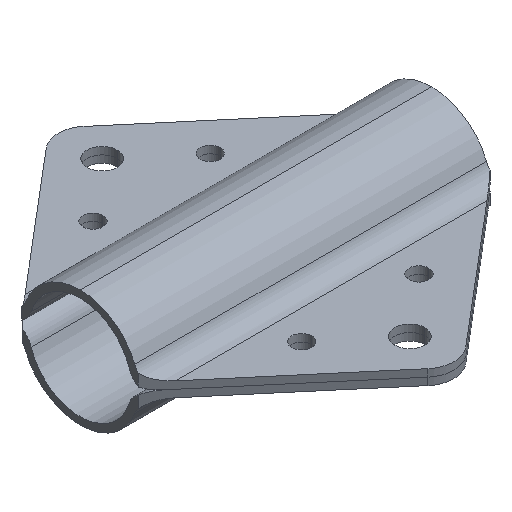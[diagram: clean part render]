
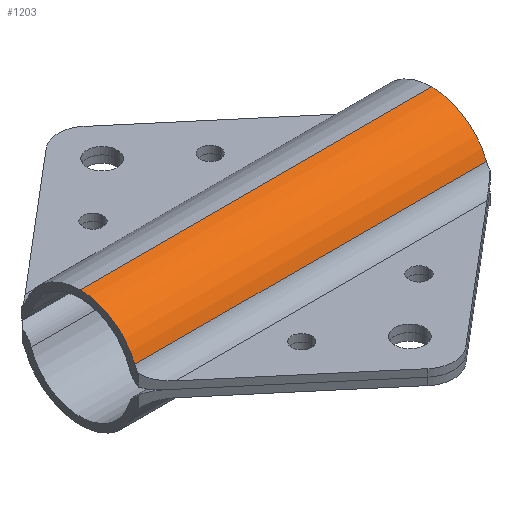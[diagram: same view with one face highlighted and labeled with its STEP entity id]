
A CAD part, isometric view. The second image highlights one B-rep face of the part: STEP entity #1203.
In plain terms, the highlighted cylindrical face has radius 12.7 mm (diameter 25.4 mm), a partial arc.
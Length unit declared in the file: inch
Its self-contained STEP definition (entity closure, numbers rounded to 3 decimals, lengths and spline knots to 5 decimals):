
#54 = DIRECTION ( 'NONE',  ( -1., 0., 0. ) ) ;
#92 = CARTESIAN_POINT ( 'NONE',  ( 1.5, 2.0375, 0.0625 ) ) ;
#187 = CIRCLE ( 'NONE', #1983, 0.5 ) ;
#257 = DIRECTION ( 'NONE',  ( -1., 0., 0. ) ) ;
#282 = EDGE_CURVE ( 'NONE', #818, #1671, #453, .T. ) ;
#453 = LINE ( 'NONE', #780, #2183 ) ;
#474 = DIRECTION ( 'NONE',  ( 1., 0., 0. ) ) ;
#480 = CIRCLE ( 'NONE', #675, 0.5 ) ;
#530 = CARTESIAN_POINT ( 'NONE',  ( -1.5, 1.57173, 0.24432 ) ) ;
#538 = ORIENTED_EDGE ( 'NONE', *, *, #282, .T. ) ;
#539 = EDGE_CURVE ( 'NONE', #1671, #1609, #480, .T. ) ;
#560 = CARTESIAN_POINT ( 'NONE',  ( -1.5, 2.0375, 0.5625 ) ) ;
#671 = DIRECTION ( 'NONE',  ( -1., 0., 0. ) ) ;
#675 = AXIS2_PLACEMENT_3D ( 'NONE', #1070, #54, #1231 ) ;
#689 = ORIENTED_EDGE ( 'NONE', *, *, #1560, .T. ) ;
#770 = VECTOR ( 'NONE', #671, 39.37008 ) ;
#780 = CARTESIAN_POINT ( 'NONE',  ( 1.5, 1.57173, 0.24432 ) ) ;
#818 = VERTEX_POINT ( 'NONE', #530 ) ;
#822 = FACE_OUTER_BOUND ( 'NONE', #2071, .T. ) ;
#941 = VERTEX_POINT ( 'NONE', #560 ) ;
#943 = ORIENTED_EDGE ( 'NONE', *, *, #1713, .T. ) ;
#1070 = CARTESIAN_POINT ( 'NONE',  ( 1.5, 2.0375, 0.0625 ) ) ;
#1103 = DIRECTION ( 'NONE',  ( 0., 0., 1. ) ) ;
#1125 = DIRECTION ( 'NONE',  ( 1., 0., 0. ) ) ;
#1203 = ADVANCED_FACE ( 'NONE', ( #822 ), #1217, .T. ) ;
#1217 = CYLINDRICAL_SURFACE ( 'NONE', #1464, 0.5 ) ;
#1231 = DIRECTION ( 'NONE',  ( 0., 0., 1. ) ) ;
#1411 = ORIENTED_EDGE ( 'NONE', *, *, #539, .T. ) ;
#1464 = AXIS2_PLACEMENT_3D ( 'NONE', #92, #257, #1103 ) ;
#1484 = CARTESIAN_POINT ( 'NONE',  ( -1.5, 2.0375, 0.0625 ) ) ;
#1521 = CARTESIAN_POINT ( 'NONE',  ( 1.5, 2.0375, 0.5625 ) ) ;
#1560 = EDGE_CURVE ( 'NONE', #941, #818, #187, .T. ) ;
#1609 = VERTEX_POINT ( 'NONE', #2160 ) ;
#1611 = LINE ( 'NONE', #1521, #770 ) ;
#1645 = DIRECTION ( 'NONE',  ( 0., 0., 1. ) ) ;
#1671 = VERTEX_POINT ( 'NONE', #2173 ) ;
#1713 = EDGE_CURVE ( 'NONE', #1609, #941, #1611, .T. ) ;
#1983 = AXIS2_PLACEMENT_3D ( 'NONE', #1484, #474, #1645 ) ;
#2071 = EDGE_LOOP ( 'NONE', ( #1411, #943, #689, #538 ) ) ;
#2160 = CARTESIAN_POINT ( 'NONE',  ( 1.5, 2.0375, 0.5625 ) ) ;
#2173 = CARTESIAN_POINT ( 'NONE',  ( 1.5, 1.57173, 0.24432 ) ) ;
#2183 = VECTOR ( 'NONE', #1125, 39.37008 ) ;
